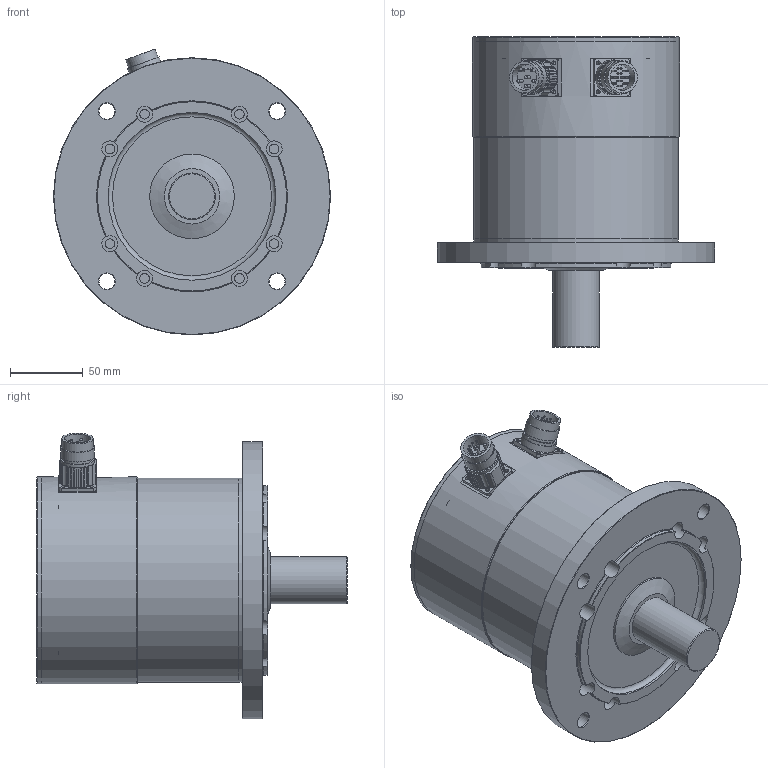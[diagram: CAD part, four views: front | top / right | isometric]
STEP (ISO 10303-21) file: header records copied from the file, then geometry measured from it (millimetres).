
FILE_DESCRIPTION(/* description */ (''),/* implementation_level */ '2;1');
FILE_NAME(/* name */ 'ksy_564e_r4',/* time_stamp */ '2007-03-19T08:36:25+01:00',/* author */ (''),/* organization */ (''),/* preprocessor_version */ 'ST-DEVELOPER v8',/* originating_system */ 'UNIGRAPHICS SOLUTIONS - UNIGRAPHICS 18.0',/* authorisation */ '');
FILE_SCHEMA (('AUTOMOTIVE_DESIGN { 1 2 10303 214 0 1 1 1 }'));
Length unit declared in the file: millimetre
Products named in the file (10): 064267_0; 014261_0; 014260_0; 06333701_0; DIN3760_org_A35x52x7_0; Rotor_SY 56.. E_0; 115116_0; Gehaeuse_SY 56.. E_0; 115115_0; KSY564_E-R4_0
Assembly tree (9 placements, depth 2):
  KSY564_E-R4_0
    115115_0
    Gehaeuse_SY 56.. E_0
    115116_0
    Rotor_SY 56.. E_0
    DIN3760_org_A35x52x7_0
    06333701_0
    014260_0
    014261_0
    064267_0
Bounding box: 190 x 213 x 195.93 mm (x, y, z)
Volume: 1319531.7 mm3; surface area: 304931.3 mm2
Topology: 9 solids, 9 shells, 420 faces, 1052 edges, 677 vertices
Faces by surface type: cylinder 210, plane 100, cone 65, torus 25, sphere 20
Full cylindrical faces by diameter (mm): 1 x16, 2 x4, 2.135 x8, 2.7 x8, 3.013 x7, 4.5 x7, 5.5 x4, 6.6 x8, 8 x7, 10 x4, 11 x13, 18 x2, 20 x4, 21 x2, 21.5 x2, 23 x4, 24 x1, 30.5 x1, 31.52 x1, 31.95 x1, 32 x1, 35 x2, 35.3 x1, 36.83 x1, 40 x1, 49 x1, 52 x2, 53 x1, 54 x1, 58 x1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
Entity records: 11197 total; most frequent: CARTESIAN_POINT 2064, DIRECTION 2025, ORIENTED_EDGE 1370, AXIS2_PLACEMENT_3D 949, EDGE_LOOP 783, EDGE_CURVE 685, VERTEX_POINT 574, FACE_BOUND 530
